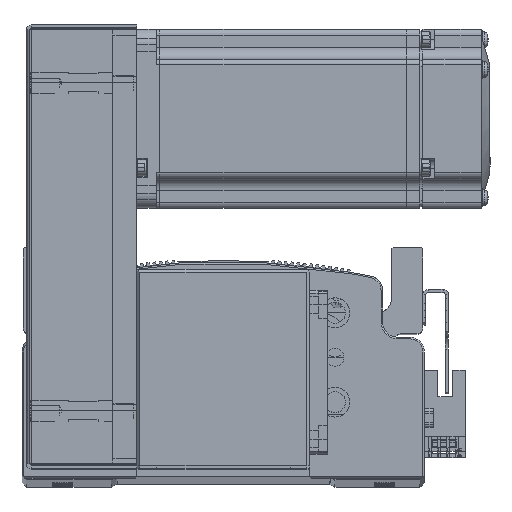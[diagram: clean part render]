
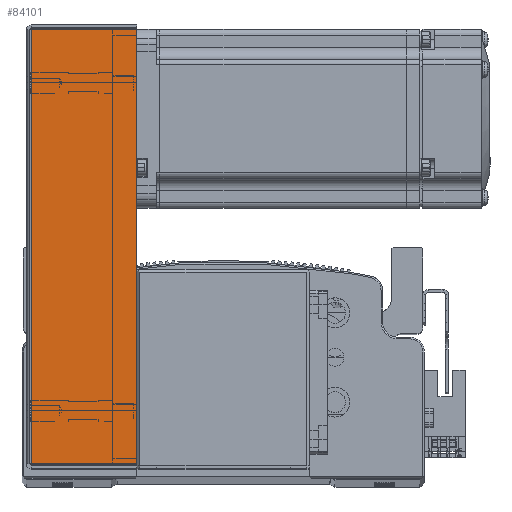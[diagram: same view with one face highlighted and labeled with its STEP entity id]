
A CAD part, top view. The second image highlights one B-rep face of the part: STEP entity #84101.
In plain terms, the highlighted planar face has unit normal (0, 0, 1).
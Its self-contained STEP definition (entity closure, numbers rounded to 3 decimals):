
#1310 = PLANE ( 'NONE',  #16905 ) ;
#1326 = DIRECTION ( 'NONE',  ( 0., 0., -1. ) ) ;
#1338 = DIRECTION ( 'NONE',  ( -1., 0., 0. ) ) ;
#1339 = CARTESIAN_POINT ( 'NONE',  ( 0., 0., 34.5 ) ) ;
#11373 = FACE_OUTER_BOUND ( 'NONE', #68571, .T. ) ;
#16905 = AXIS2_PLACEMENT_3D ( 'NONE', #1339, #1326, #1338 ) ;
#35809 = DIRECTION ( 'NONE',  ( -1., 0., 0. ) ) ;
#35846 = CARTESIAN_POINT ( 'NONE',  ( 72.793, 0., 34.5 ) ) ;
#35853 = DIRECTION ( 'NONE',  ( 0., 1., 0. ) ) ;
#35895 = CARTESIAN_POINT ( 'NONE',  ( 0., 36., 34.5 ) ) ;
#36024 = DIRECTION ( 'NONE',  ( 0., 1., 0. ) ) ;
#36100 = CARTESIAN_POINT ( 'NONE',  ( -72.793, 0., 34.5 ) ) ;
#36902 = CARTESIAN_POINT ( 'NONE',  ( 72.793, 0.737, 34.5 ) ) ;
#36950 = CARTESIAN_POINT ( 'NONE',  ( -72.793, 36., 34.5 ) ) ;
#36956 = CARTESIAN_POINT ( 'NONE',  ( -72.793, 0.737, 34.5 ) ) ;
#36999 = CARTESIAN_POINT ( 'NONE',  ( 72.793, 36., 34.5 ) ) ;
#50585 = DIRECTION ( 'NONE',  ( -1., 0., 0. ) ) ;
#50638 = CARTESIAN_POINT ( 'NONE',  ( -74.5, 0.737, 34.5 ) ) ;
#58467 = LINE ( 'NONE', #50638, #58472 ) ;
#58472 = VECTOR ( 'NONE', #50585, 1000. ) ;
#58538 = VECTOR ( 'NONE', #35809, 1000. ) ;
#58547 = VECTOR ( 'NONE', #35853, 1000. ) ;
#58554 = LINE ( 'NONE', #35895, #58538 ) ;
#58560 = LINE ( 'NONE', #35846, #58547 ) ;
#58584 = VECTOR ( 'NONE', #36024, 1000. ) ;
#58586 = LINE ( 'NONE', #36100, #58584 ) ;
#67303 = EDGE_CURVE ( 'NONE', #69219, #69274, #58467, .T. ) ;
#67368 = EDGE_CURVE ( 'NONE', #69219, #69280, #58560, .T. ) ;
#67373 = EDGE_CURVE ( 'NONE', #69280, #69265, #58554, .T. ) ;
#67380 = EDGE_CURVE ( 'NONE', #69274, #69265, #58586, .T. ) ;
#68571 = EDGE_LOOP ( 'NONE', ( #76038, #75874, #76004, #75914 ) ) ;
#69219 = VERTEX_POINT ( 'NONE', #36902 ) ;
#69265 = VERTEX_POINT ( 'NONE', #36950 ) ;
#69274 = VERTEX_POINT ( 'NONE', #36956 ) ;
#69280 = VERTEX_POINT ( 'NONE', #36999 ) ;
#75874 = ORIENTED_EDGE ( 'NONE', *, *, #67368, .T. ) ;
#75914 = ORIENTED_EDGE ( 'NONE', *, *, #67380, .F. ) ;
#76004 = ORIENTED_EDGE ( 'NONE', *, *, #67373, .T. ) ;
#76038 = ORIENTED_EDGE ( 'NONE', *, *, #67303, .F. ) ;
#84101 = ADVANCED_FACE ( 'NONE', ( #11373 ), #1310, .F. ) ;
